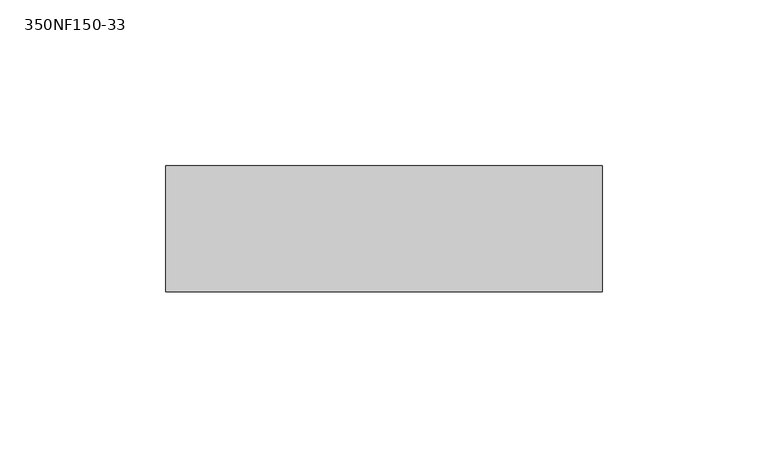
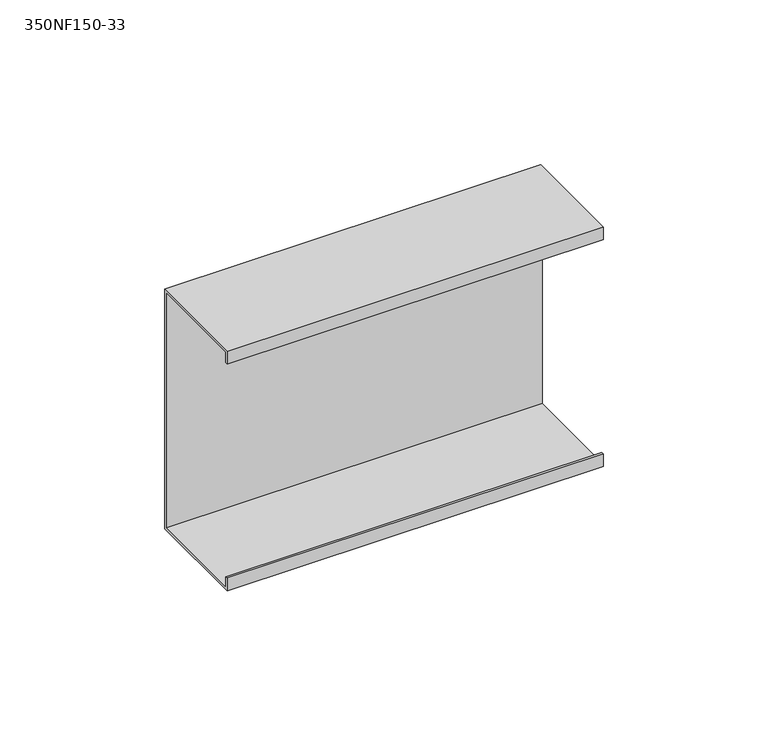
"""IFC4 building model written with IfcOpenShell, lengths in millimetres: beam geometry, BIMSF-SSMA-S : 350NF150-33."""

from ifc_helpers import new_model, si_unit, frame, origin, place, context, project, spatial, polyline, outline, extrude, source, transform, mapped, element, save


def beam_350nf150_33_606cd853(model_context):
    return source(origin(), model_context, "Body", "SweptSolid", [
        extrude(outline(polyline([(19.05, 44.45), (19.05, -44.45), (-19.05, -44.45), (-19.05, -39.6748), (-18.1676842, -39.6748), (-18.1676842, -43.5676842), (18.1676842, -43.5676842), (18.1676842, 43.5676842), (-18.1676842, 43.5676842), (-18.1676842, 39.6748), (-19.05, 39.6748), (-19.05, 44.45), (19.05, 44.45)])), frame((-65.88125, 0.0, 0.0), z_axis=(1.0, 0.0, 0.0), x_axis=(0.0, 1.0, 0.0)), (0.0, 0.0, 1.0), 131.7625),
    ])


if __name__ == "__main__":
    model = new_model("IFC4")
    model_context = context("Model", 3, world=origin())
    ifc_project = project(units=[si_unit("LENGTHUNIT", "METRE", prefix="MILLI")], contexts=[model_context])
    site = spatial("IfcSite", under=ifc_project)
    building = spatial("IfcBuilding", under=site)
    placement = place(None, origin())
    beam_350nf150_33_shape = beam_350nf150_33_606cd853(model_context)
    element("IfcBeam", 1, ObjectType="BIMSF-SSMA-S : 350NF150-33", at=placement, inside=building, context=model_context, shape_type="MappedRepresentation", body=[
        mapped(beam_350nf150_33_shape, transform((0.0, 0.0, 0.0), x_axis=(1.0, 0.0, 0.0), y_axis=(0.0, 1.0, 0.0), z_axis=(0.0, 0.0, 1.0))),
    ])
    save(model, "model.ifc")
